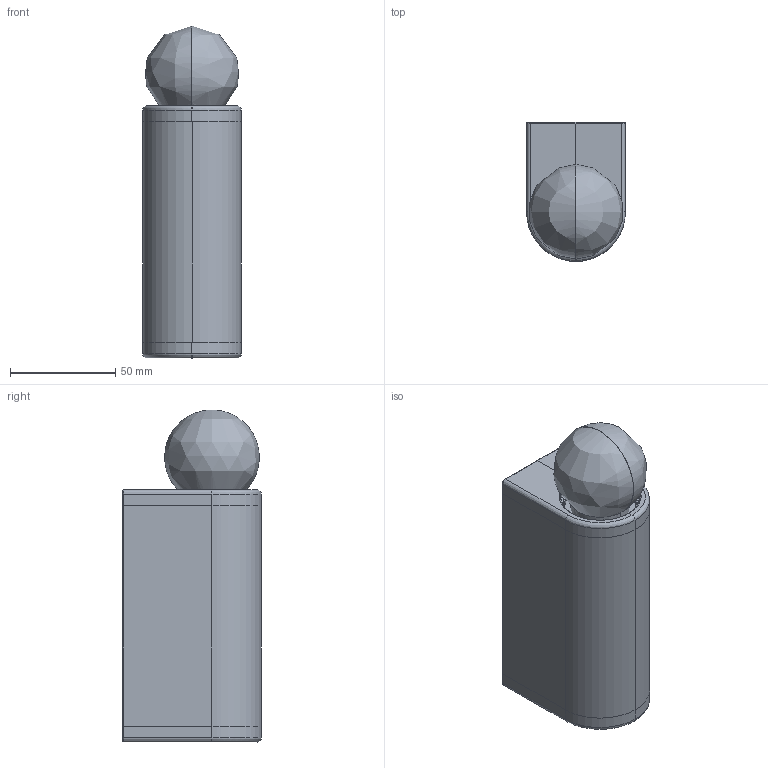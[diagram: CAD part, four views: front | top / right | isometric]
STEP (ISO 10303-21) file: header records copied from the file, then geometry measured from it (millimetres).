
FILE_DESCRIPTION(/* description */ (''),/* implementation_level */ '2;1');
FILE_NAME(/* name */ 'MA_White Porcelain Series D3_240V_2017',/* time_stamp */ '2020-12-02T12:04:23+00:00',/* author */ (''),/* organization */ (''),/* preprocessor_version */ 'ST-DEVELOPER v15',/* originating_system */ '',/* authorisation */ '');
FILE_SCHEMA (('AUTOMOTIVE_DESIGN'));
Length unit declared in the file: millimetre
Products named in the file (1): Document
Bounding box: 47 x 66 x 157.98 mm (x, y, z)
Surface area: 44292.1 mm2 (no closed solid volume)
Topology: 0 solids, 7 shells, 121 faces, 388 edges, 218 vertices
Faces by surface type: bspline 110, plane 11
Entity records: 6226 total; most frequent: CARTESIAN_POINT 4578, ORIENTED_EDGE 564, EDGE_CURVE 382, VERTEX_POINT 216, ADVANCED_FACE 121, FACE_OUTER_BOUND 121, EDGE_LOOP 121, B_SPLINE_CURVE_WITH_KNOTS 36
